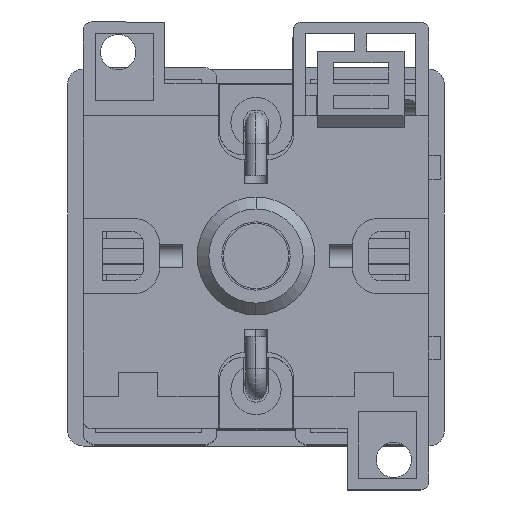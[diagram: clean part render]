
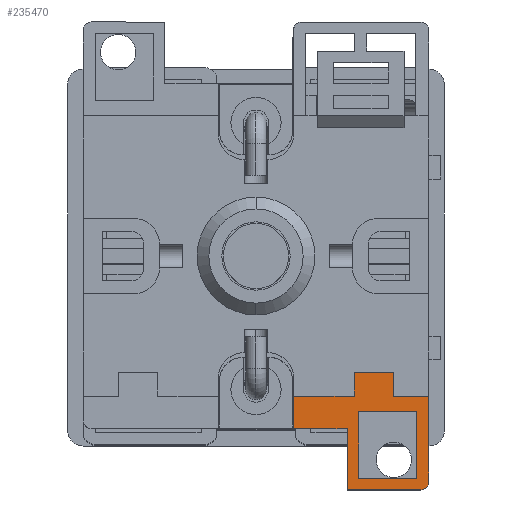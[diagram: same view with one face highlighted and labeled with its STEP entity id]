
A CAD part, top view. The second image highlights one B-rep face of the part: STEP entity #235470.
In plain terms, the highlighted planar face has unit normal (0, 0, 1).
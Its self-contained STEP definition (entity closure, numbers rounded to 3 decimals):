
#611 = VECTOR ( 'NONE', #30891, 1000. ) ;
#7799 = VECTOR ( 'NONE', #58859, 1000. ) ;
#8743 = LINE ( 'NONE', #166649, #33723 ) ;
#9143 = CARTESIAN_POINT ( 'NONE',  ( 23.861, -19.961, -144.082 ) ) ;
#10890 = VERTEX_POINT ( 'NONE', #176446 ) ;
#11529 = VECTOR ( 'NONE', #204720, 1000. ) ;
#17022 = ORIENTED_EDGE ( 'NONE', *, *, #108307, .F. ) ;
#17500 = VECTOR ( 'NONE', #53283, 1000. ) ;
#22975 = ORIENTED_EDGE ( 'NONE', *, *, #222348, .F. ) ;
#26071 = FACE_BOUND ( 'NONE', #58762, .T. ) ;
#26494 = VERTEX_POINT ( 'NONE', #90460 ) ;
#28220 = CARTESIAN_POINT ( 'NONE',  ( 11.161, -27.111, -144.082 ) ) ;
#29883 = CARTESIAN_POINT ( 'NONE',  ( 11.161, -22.961, -144.082 ) ) ;
#30891 = DIRECTION ( 'NONE',  ( 1., 0., 0. ) ) ;
#32649 = ORIENTED_EDGE ( 'NONE', *, *, #49316, .F. ) ;
#33723 = VECTOR ( 'NONE', #148178, 1000. ) ;
#34602 = VECTOR ( 'NONE', #68049, 1000. ) ;
#35050 = DIRECTION ( 'NONE',  ( -1., 0., 0. ) ) ;
#44821 = DIRECTION ( 'NONE',  ( 1., 0., 0. ) ) ;
#45679 = CARTESIAN_POINT ( 'NONE',  ( 27.361, -33.911, -144.082 ) ) ;
#48749 = ORIENTED_EDGE ( 'NONE', *, *, #124892, .F. ) ;
#49316 = EDGE_CURVE ( 'NONE', #255689, #156406, #8743, .T. ) ;
#50621 = LINE ( 'NONE', #151341, #63186 ) ;
#51003 = CARTESIAN_POINT ( 'NONE',  ( 6.361, -5.111, -144.082 ) ) ;
#51305 = EDGE_CURVE ( 'NONE', #205075, #181186, #68957, .T. ) ;
#52781 = VERTEX_POINT ( 'NONE', #122306 ) ;
#53283 = DIRECTION ( 'NONE',  ( 1., 0., 0. ) ) ;
#53306 = CARTESIAN_POINT ( 'NONE',  ( 28.361, -33.911, -144.082 ) ) ;
#56343 = VECTOR ( 'NONE', #194696, 1000. ) ;
#56659 = VECTOR ( 'NONE', #90971, 1000. ) ;
#58762 = EDGE_LOOP ( 'NONE', ( #248220, #107959, #186714, #69298 ) ) ;
#58859 = DIRECTION ( 'NONE',  ( 1., 0., 0. ) ) ;
#59471 = LINE ( 'NONE', #93881, #109328 ) ;
#60320 = ORIENTED_EDGE ( 'NONE', *, *, #231363, .F. ) ;
#60873 = LINE ( 'NONE', #176999, #7799 ) ;
#63186 = VECTOR ( 'NONE', #35050, 1000. ) ;
#65371 = VERTEX_POINT ( 'NONE', #91536 ) ;
#65688 = CARTESIAN_POINT ( 'NONE',  ( -51.715, -22.961, -144.082 ) ) ;
#66484 = CARTESIAN_POINT ( 'NONE',  ( 23.861, -22.961, -144.082 ) ) ;
#67959 = VERTEX_POINT ( 'NONE', #150137 ) ;
#68049 = DIRECTION ( 'NONE',  ( 0., -1., 0. ) ) ;
#68135 = CARTESIAN_POINT ( 'NONE',  ( 19.461, -33.411, -144.082 ) ) ;
#68957 = CIRCLE ( 'NONE', #134311, 1. ) ;
#69298 = ORIENTED_EDGE ( 'NONE', *, *, #172328, .F. ) ;
#72548 = DIRECTION ( 'NONE',  ( -1., 0., 0. ) ) ;
#76687 = EDGE_CURVE ( 'NONE', #52781, #10890, #192938, .T. ) ;
#79043 = CARTESIAN_POINT ( 'NONE',  ( 26.861, -33.411, -144.082 ) ) ;
#82333 = CARTESIAN_POINT ( 'NONE',  ( 18.861, -19.961, -144.082 ) ) ;
#83868 = VERTEX_POINT ( 'NONE', #144069 ) ;
#90460 = CARTESIAN_POINT ( 'NONE',  ( 19.461, -33.411, -144.082 ) ) ;
#90971 = DIRECTION ( 'NONE',  ( 0., -1., 0. ) ) ;
#91536 = CARTESIAN_POINT ( 'NONE',  ( 19.461, -24.961, -144.082 ) ) ;
#93881 = CARTESIAN_POINT ( 'NONE',  ( 28.361, -34.911, -144.082 ) ) ;
#102787 = ORIENTED_EDGE ( 'NONE', *, *, #51305, .T. ) ;
#104893 = VECTOR ( 'NONE', #72548, 1000. ) ;
#106964 = CARTESIAN_POINT ( 'NONE',  ( 27.361, -34.911, -144.082 ) ) ;
#107959 = ORIENTED_EDGE ( 'NONE', *, *, #76687, .F. ) ;
#108307 = EDGE_CURVE ( 'NONE', #175425, #137283, #112716, .T. ) ;
#109097 = EDGE_CURVE ( 'NONE', #247655, #67959, #202303, .T. ) ;
#109328 = VECTOR ( 'NONE', #171762, 1000. ) ;
#112716 = LINE ( 'NONE', #254033, #56343 ) ;
#121287 = VECTOR ( 'NONE', #208059, 1000. ) ;
#122306 = CARTESIAN_POINT ( 'NONE',  ( 26.861, -33.411, -144.082 ) ) ;
#123708 = VERTEX_POINT ( 'NONE', #28220 ) ;
#124892 = EDGE_CURVE ( 'NONE', #156406, #83868, #215055, .T. ) ;
#129922 = LINE ( 'NONE', #231557, #104893 ) ;
#134311 = AXIS2_PLACEMENT_3D ( 'NONE', #45679, #245761, #44821 ) ;
#137283 = VERTEX_POINT ( 'NONE', #137610 ) ;
#137610 = CARTESIAN_POINT ( 'NONE',  ( 17.961, -27.111, -144.082 ) ) ;
#137948 = AXIS2_PLACEMENT_3D ( 'NONE', #51003, #208360, #209213 ) ;
#140911 = ORIENTED_EDGE ( 'NONE', *, *, #247064, .F. ) ;
#144069 = CARTESIAN_POINT ( 'NONE',  ( 28.361, -22.961, -144.082 ) ) ;
#145085 = DIRECTION ( 'NONE',  ( 0., -1., 0. ) ) ;
#148178 = DIRECTION ( 'NONE',  ( 0., -1., 0. ) ) ;
#148717 = EDGE_CURVE ( 'NONE', #83868, #181186, #153451, .T. ) ;
#150137 = CARTESIAN_POINT ( 'NONE',  ( 18.861, -22.961, -144.082 ) ) ;
#150436 = EDGE_CURVE ( 'NONE', #10890, #65371, #50621, .T. ) ;
#150852 = EDGE_CURVE ( 'NONE', #224157, #123708, #172100, .T. ) ;
#151341 = CARTESIAN_POINT ( 'NONE',  ( 26.861, -24.961, -144.082 ) ) ;
#153451 = LINE ( 'NONE', #189740, #56659 ) ;
#154158 = CARTESIAN_POINT ( 'NONE',  ( 17.961, -34.911, -144.082 ) ) ;
#154685 = CARTESIAN_POINT ( 'NONE',  ( 23.861, -19.961, -144.082 ) ) ;
#156406 = VERTEX_POINT ( 'NONE', #66484 ) ;
#158146 = LINE ( 'NONE', #68135, #258088 ) ;
#166649 = CARTESIAN_POINT ( 'NONE',  ( 23.861, -19.961, -144.082 ) ) ;
#167389 = ORIENTED_EDGE ( 'NONE', *, *, #150852, .T. ) ;
#171762 = DIRECTION ( 'NONE',  ( -1., 0., 0. ) ) ;
#172100 = LINE ( 'NONE', #206174, #34602 ) ;
#172328 = EDGE_CURVE ( 'NONE', #65371, #26494, #158146, .T. ) ;
#173979 = CARTESIAN_POINT ( 'NONE',  ( 26.861, -33.411, -144.082 ) ) ;
#175425 = VERTEX_POINT ( 'NONE', #154158 ) ;
#176446 = CARTESIAN_POINT ( 'NONE',  ( 26.861, -24.961, -144.082 ) ) ;
#176999 = CARTESIAN_POINT ( 'NONE',  ( -51.715, -22.961, -144.082 ) ) ;
#181186 = VERTEX_POINT ( 'NONE', #53306 ) ;
#186714 = ORIENTED_EDGE ( 'NONE', *, *, #254065, .F. ) ;
#187441 = PLANE ( 'NONE',  #137948 ) ;
#189740 = CARTESIAN_POINT ( 'NONE',  ( 28.361, -34.911, -144.082 ) ) ;
#192938 = LINE ( 'NONE', #79043, #195936 ) ;
#194696 = DIRECTION ( 'NONE',  ( 0., 1., 0. ) ) ;
#195936 = VECTOR ( 'NONE', #219742, 1000. ) ;
#200223 = ORIENTED_EDGE ( 'NONE', *, *, #254031, .F. ) ;
#201906 = EDGE_LOOP ( 'NONE', ( #22975, #102787, #258549, #48749, #32649, #140911, #244327, #60320, #167389, #200223, #17022 ) ) ;
#201930 = LINE ( 'NONE', #173979, #17500 ) ;
#202303 = LINE ( 'NONE', #82333, #11529 ) ;
#204720 = DIRECTION ( 'NONE',  ( 0., -1., 0. ) ) ;
#205075 = VERTEX_POINT ( 'NONE', #106964 ) ;
#206174 = CARTESIAN_POINT ( 'NONE',  ( 11.161, 24.689, -144.082 ) ) ;
#208059 = DIRECTION ( 'NONE',  ( 1., 0., 0. ) ) ;
#208360 = DIRECTION ( 'NONE',  ( 0., 0., -1. ) ) ;
#209213 = DIRECTION ( 'NONE',  ( 1., 0., 0. ) ) ;
#215055 = LINE ( 'NONE', #65688, #121287 ) ;
#219742 = DIRECTION ( 'NONE',  ( 0., 1., 0. ) ) ;
#222348 = EDGE_CURVE ( 'NONE', #205075, #175425, #59471, .T. ) ;
#224157 = VERTEX_POINT ( 'NONE', #29883 ) ;
#231363 = EDGE_CURVE ( 'NONE', #224157, #67959, #60873, .T. ) ;
#231557 = CARTESIAN_POINT ( 'NONE',  ( -15.639, -27.111, -144.082 ) ) ;
#235470 = ADVANCED_FACE ( 'NONE', ( #26071, #251119 ), #187441, .F. ) ;
#244327 = ORIENTED_EDGE ( 'NONE', *, *, #109097, .T. ) ;
#244438 = LINE ( 'NONE', #9143, #611 ) ;
#245761 = DIRECTION ( 'NONE',  ( 0., 0., 1. ) ) ;
#245939 = CARTESIAN_POINT ( 'NONE',  ( 18.861, -19.961, -144.082 ) ) ;
#247064 = EDGE_CURVE ( 'NONE', #247655, #255689, #244438, .T. ) ;
#247655 = VERTEX_POINT ( 'NONE', #245939 ) ;
#248220 = ORIENTED_EDGE ( 'NONE', *, *, #150436, .F. ) ;
#251119 = FACE_OUTER_BOUND ( 'NONE', #201906, .T. ) ;
#254031 = EDGE_CURVE ( 'NONE', #137283, #123708, #129922, .T. ) ;
#254033 = CARTESIAN_POINT ( 'NONE',  ( 17.961, -27.111, -144.082 ) ) ;
#254065 = EDGE_CURVE ( 'NONE', #26494, #52781, #201930, .T. ) ;
#255689 = VERTEX_POINT ( 'NONE', #154685 ) ;
#258088 = VECTOR ( 'NONE', #145085, 1000. ) ;
#258549 = ORIENTED_EDGE ( 'NONE', *, *, #148717, .F. ) ;
